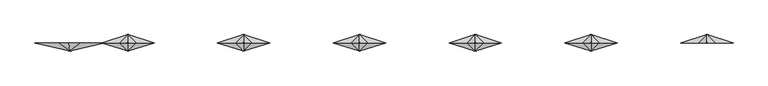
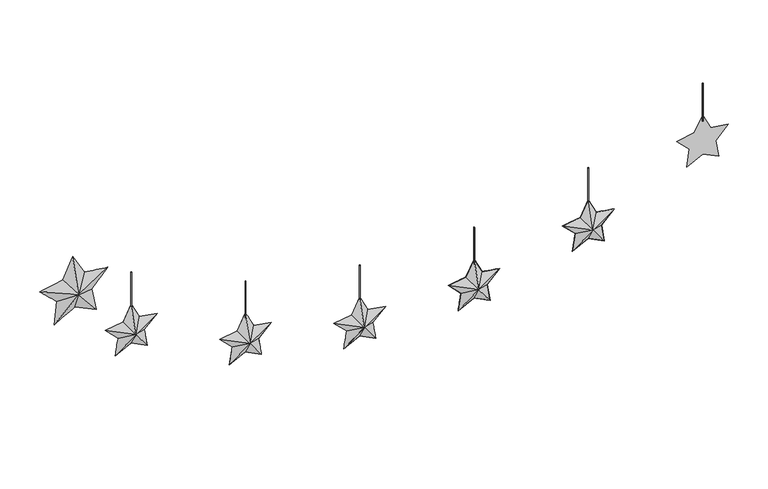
"""IFC4 building model written with IfcOpenShell, lengths in millimetres: furniture geometry, Blocks_Star Garland_F00495EN : Amarelo."""

from ifc_helpers import new_model, si_unit, point, frame, frame_2d, origin, place, context, project, spatial, circle_curve, trimmed, segment, composite_curve, outline, extrude, source, transform, mapped, element, save
from ifc_brep_helpers import plane_surface, spline_surface, advanced_brep


def furniture_0ae71e41(model_context):
    return source(origin(), model_context, "Body", "SolidModel", [
        advanced_brep(
        [(-856.4274722, -20.0, 2391.1650767), (-857.2103216, -20.0, 2391.6931154), (-857.9384188, -20.0, 2391.1330915), (-857.6264346, -20.0, 2390.2759219), (-856.6718154, -20.0, 2390.3129506), (-772.3482802, 0.0, 2421.7673999), (-812.8397593, 0.0, 2378.3456047), (-801.5110833, 0.0, 2320.0646192), (-855.3202198, 0.0, 2345.1562316), (-907.2479774, 0.0, 2316.3722055), (-900.0123736, 0.0, 2375.30147), (-943.4341687, 0.0, 2415.792949), (-885.1531832, 0.0, 2427.121625), (-860.0615708, 0.0, 2480.9307614), (-831.2775447, 0.0, 2429.0030038)],
        [
            (0, 1),
            (1, 2),
            (2, 3),
            (3, 4),
            (4, 0),
            (5, 6),
            (6, 7),
            (7, 8),
            (8, 9),
            (9, 10),
            (10, 11),
            (11, 12),
            (12, 13),
            (13, 14),
            (14, 5),
            (5, 0),
            (4, 6),
            (4, 7),
            (4, 8),
            (3, 9),
            (11, 2),
            (1, 12),
            (1, 13),
            (1, 14),
            (10, 3),
        ],
        [
            plane_surface(frame((-857.1748925, -20.0, 2390.9160312), z_axis=(0.0, -1.0000000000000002, 0.0), x_axis=(-0.8290375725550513, 0.0, 0.5591929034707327))),
            plane_surface(frame((-856.9206161, 0.0, 2390.985587), z_axis=(0.0, 1.0000000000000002, 0.0), x_axis=(-0.8290375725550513, 0.0, 0.5591929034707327))),
            spline_surface(1, 1, [[(-812.8397593, 0.0, 2378.3456047), (-856.6718154, -20.0, 2390.3129506)], [(-772.3482802, 0.0, 2421.7673999), (-856.4274722, -20.0, 2391.1650767)]], [2, 2], [2, 2], [0.0, 1.0], [0.0, 1.0]),
            plane_surface(frame((-807.1754213, 0.0, 2349.205112), z_axis=(0.4325552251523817, -0.8976783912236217, 0.0840802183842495), x_axis=(-0.19080899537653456, 0.0, 0.981627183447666))),
            plane_surface(frame((-828.4156515, 0.0, 2332.6104254), z_axis=(-0.1876682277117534, -0.8959966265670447, -0.40245581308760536), x_axis=(0.9063077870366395, 0.0, -0.42261826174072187))),
            spline_surface(1, 1, [[(-907.2479774, 0.0, 2316.3722055), (-857.6264346, -20.0, 2390.2759219)], [(-855.3202198, 0.0, 2345.1562316), (-856.6718154, -20.0, 2390.3129506)]], [2, 2], [2, 2], [0.0, 1.0], [0.0, 1.0]),
            spline_surface(1, 1, [[(-885.1531832, 0.0, 2427.121625), (-857.2103216, -20.0, 2391.6931154)], [(-943.4341687, 0.0, 2415.792949), (-857.9384188, -20.0, 2391.1330915)]], [2, 2], [2, 2], [0.0, 1.0], [0.0, 1.0]),
            plane_surface(frame((-872.607377, 0.0, 2454.0261932), z_axis=(-0.4029135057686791, -0.8957461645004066, 0.18788165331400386), x_axis=(-0.4226182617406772, 0.0, -0.9063077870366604))),
            plane_surface(frame((-845.6695578, 0.0, 2454.9668826), z_axis=(0.3852022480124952, -0.8977906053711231, 0.21352109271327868), x_axis=(-0.4848096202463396, 0.0, 0.8746197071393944))),
            spline_surface(1, 1, [[(-772.3482802, 0.0, 2421.7673999), (-856.4274722, -20.0, 2391.1650767)], [(-831.2775447, 0.0, 2429.0030038), (-857.2103216, -20.0, 2391.6931154)]], [2, 2], [2, 2], [0.0, 1.0], [0.0, 1.0]),
            spline_surface(1, 1, [[(-943.4341687, 0.0, 2415.792949), (-857.9384188, -20.0, 2391.1330915)], [(-900.0123736, 0.0, 2375.30147), (-857.6264346, -20.0, 2390.2759219)]], [2, 2], [2, 2], [0.0, 1.0], [0.0, 1.0]),
            plane_surface(frame((-903.6301755, 0.0, 2345.8368377), z_axis=(-0.4417137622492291, -0.8955151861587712, 0.05423563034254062), x_axis=(-0.12186934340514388, 0.0, -0.9925461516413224))),
        ],
        [
            (0, [[1, 2, 3, 4, 5]]),
            (1, [[6, 7, 8, 9, 10, 11, 12, 13, 14, 15]]),
            (2, [[-6, 16, -5, 17]]),
            (3, [[-7, -17, 18]]),
            (4, [[-8, -18, 19]]),
            (5, [[-9, -19, -4, 20]]),
            (6, [[-12, 21, -2, 22]]),
            (7, [[-13, -22, 23]]),
            (8, [[-14, -23, 24]]),
            (9, [[-15, -24, -1, -16]]),
            (10, [[-11, 25, -3, -21]]),
            (11, [[-10, -20, -25]]),
        ],
    ),
        extrude(outline(composite_curve([segment(trimmed(circle_curve(frame_2d((-714.2857143, 0.0)), 1.0), [point((-715.2857143, 0.0))], [point((-713.2857143, 0.0))], False, "CARTESIAN"), True, "CONTINUOUS"), segment(trimmed(circle_curve(frame_2d((-714.2857143, 0.0)), 1.0), [point((-713.2857143, 0.0))], [point((-715.2857143, 0.0))], False, "CARTESIAN"), True, "CONTINUOUS")], self_intersect=False)), frame((0.0, 0.0, 2287.5637503), z_axis=(0.0, 0.0, 1.0), x_axis=(1.0, 0.0, 0.0)), (0.0, 0.0, 1.0), 100.0),
        extrude(outline(composite_curve([segment(trimmed(circle_curve(frame_2d((-428.5714286, 0.0)), 1.0), [point((-429.5714286, 0.0))], [point((-427.5714286, 0.0))], False, "CARTESIAN"), True, "CONTINUOUS"), segment(trimmed(circle_curve(frame_2d((-428.5714286, 0.0)), 1.0), [point((-427.5714286, 0.0))], [point((-429.5714286, 0.0))], False, "CARTESIAN"), True, "CONTINUOUS")], self_intersect=False)), frame((0.0, 0.0, 2163.9606673), z_axis=(0.0, 0.0, 1.0), x_axis=(1.0, 0.0, 0.0)), (0.0, 0.0, 1.0), 100.0),
        extrude(outline(composite_curve([segment(trimmed(circle_curve(frame_2d((-142.8571429, 0.0)), 1.0), [point((-143.8571429, 0.0))], [point((-141.8571429, 0.0))], False, "CARTESIAN"), True, "CONTINUOUS"), segment(trimmed(circle_curve(frame_2d((-142.8571429, 0.0)), 1.0), [point((-141.8571429, 0.0))], [point((-143.8571429, 0.0))], False, "CARTESIAN"), True, "CONTINUOUS")], self_intersect=False)), frame((0.0, 0.0, 2106.2898264), z_axis=(0.0, 0.0, 1.0), x_axis=(1.0, 0.0, 0.0)), (0.0, 0.0, 1.0), 100.0),
        extrude(outline(composite_curve([segment(trimmed(circle_curve(frame_2d((714.2857143, 0.0)), 1.0), [point((715.2857143, 0.0))], [point((713.2857143, 0.0))], False, "CARTESIAN"), True, "CONTINUOUS"), segment(trimmed(circle_curve(frame_2d((714.2857143, 0.0)), 1.0), [point((713.2857143, 0.0))], [point((715.2857143, 0.0))], False, "CARTESIAN"), True, "CONTINUOUS")], self_intersect=False)), frame((0.0, 0.0, 2287.5637503), z_axis=(0.0, 0.0, 1.0), x_axis=(1.0, 0.0, 0.0)), (0.0, 0.0, 1.0), 100.0),
        extrude(outline(composite_curve([segment(trimmed(circle_curve(frame_2d((428.5714286, 0.0)), 1.0), [point((429.5714286, 0.0))], [point((427.5714286, 0.0))], False, "CARTESIAN"), True, "CONTINUOUS"), segment(trimmed(circle_curve(frame_2d((428.5714286, 0.0)), 1.0), [point((427.5714286, 0.0))], [point((429.5714286, 0.0))], False, "CARTESIAN"), True, "CONTINUOUS")], self_intersect=False)), frame((0.0, 0.0, 2163.9606673), z_axis=(0.0, 0.0, 1.0), x_axis=(1.0, 0.0, 0.0)), (0.0, 0.0, 1.0), 100.0),
        extrude(outline(composite_curve([segment(trimmed(circle_curve(frame_2d((142.8571429, 0.0)), 1.0), [point((143.8571429, 0.0))], [point((141.8571429, 0.0))], False, "CARTESIAN"), True, "CONTINUOUS"), segment(trimmed(circle_curve(frame_2d((142.8571429, 0.0)), 1.0), [point((141.8571429, 0.0))], [point((143.8571429, 0.0))], False, "CARTESIAN"), True, "CONTINUOUS")], self_intersect=False)), frame((0.0, 0.0, 2106.2898264), z_axis=(0.0, 0.0, 1.0), x_axis=(1.0, 0.0, 0.0)), (0.0, 0.0, 1.0), 100.0),
        advanced_brep(
        [(-142.8571429, -20.0, 2054.7920539), (-143.5743091, -20.0, 2054.2710021), (-143.2826057, -20.0, 2053.3612889), (-142.3704249, -20.0, 2053.3612889), (-142.0931986, -20.0, 2054.2370159), (-142.8571429, 0.0, 2122.2403684), (-122.4997719, 0.0, 2082.2867784), (-78.2108762, 0.0, 2075.2721064), (-109.9182248, 0.0, 2043.5647578), (-102.9035528, 0.0, 1999.2758621), (-142.8571429, 0.0, 2019.633233), (-182.8107329, 0.0, 1999.2758621), (-175.7960609, 0.0, 2043.5647578), (-207.5034095, 0.0, 2075.2721064), (-163.2145138, 0.0, 2082.2867784)],
        [
            (0, 1),
            (1, 2),
            (2, 3),
            (3, 4),
            (4, 0),
            (5, 6),
            (6, 7),
            (7, 8),
            (8, 9),
            (9, 10),
            (10, 11),
            (11, 12),
            (12, 13),
            (13, 14),
            (14, 5),
            (14, 1),
            (0, 5),
            (13, 1),
            (12, 1),
            (11, 2),
            (10, 3),
            (9, 3),
            (8, 4),
            (7, 4),
            (6, 4),
        ],
        [
            plane_surface(frame((-142.8355362, -20.0, 2054.0045299), z_axis=(0.0, -1.0000000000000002, 0.0), x_axis=(-0.809016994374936, 0.0, -0.587785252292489))),
            plane_surface(frame((-142.8571429, 0.0, 2054.2672611), z_axis=(0.0, 1.0000000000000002, 0.0), x_axis=(-0.809016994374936, 0.0, -0.587785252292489))),
            spline_surface(1, 1, [[(-142.8571429, 0.0, 2122.2403684), (-142.8571429, -20.0, 2054.7920539)], [(-163.2145138, 0.0, 2082.2867784), (-143.5743091, -20.0, 2054.2710021)]], [2, 2], [2, 2], [0.0, 1.0], [0.0, 1.0]),
            plane_surface(frame((-185.3589617, 0.0, 2078.7794424), z_axis=(-0.08530557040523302, -0.8382332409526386, 0.5385981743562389), x_axis=(-0.9876883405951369, 0.0, -0.15643446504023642))),
            plane_surface(frame((-191.6497352, 0.0, 2059.4184321), z_axis=(-0.3890422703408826, -0.8350402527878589, -0.38904227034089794), x_axis=(0.7071067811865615, 0.0, -0.7071067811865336))),
            spline_surface(1, 1, [[(-175.7960609, 0.0, 2043.5647578), (-143.5743091, -20.0, 2054.2710021)], [(-182.8107329, 0.0, 1999.2758621), (-143.2826057, -20.0, 2053.3612889)]], [2, 2], [2, 2], [0.0, 1.0], [0.0, 1.0]),
            spline_surface(1, 1, [[(-182.8107329, 0.0, 1999.2758621), (-143.2826057, -20.0, 2053.3612889)], [(-142.8571429, 0.0, 2019.633233), (-142.3704249, -20.0, 2053.3612889)]], [2, 2], [2, 2], [0.0, 1.0], [0.0, 1.0]),
            plane_surface(frame((-122.8803478, 0.0, 2009.4545475), z_axis=(-0.25025052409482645, -0.8343572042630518, -0.49114430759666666), x_axis=(0.8910065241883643, 0.0, -0.45399049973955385))),
            spline_surface(1, 1, [[(-102.9035528, 0.0, 1999.2758621), (-142.3704249, -20.0, 2053.3612889)], [(-109.9182248, 0.0, 2043.5647578), (-142.0931986, -20.0, 2054.2370159)]], [2, 2], [2, 2], [0.0, 1.0], [0.0, 1.0]),
            plane_surface(frame((-94.0645505, 0.0, 2059.4184321), z_axis=(0.38955317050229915, -0.8345637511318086, -0.3895531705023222), x_axis=(0.7071067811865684, 0.0, 0.7071067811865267))),
            plane_surface(frame((-100.3553241, 0.0, 2078.7794424), z_axis=(0.08525441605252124, -0.8384458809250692, 0.5382751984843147), x_axis=(-0.9876883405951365, 0.0, 0.15643446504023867))),
            spline_surface(1, 1, [[(-122.4997719, 0.0, 2082.2867784), (-142.0931986, -20.0, 2054.2370159)], [(-142.8571429, 0.0, 2122.2403684), (-142.8571429, -20.0, 2054.7920539)]], [2, 2], [2, 2], [0.0, 1.0], [0.0, 1.0]),
        ],
        [
            (0, [[1, 2, 3, 4, 5]]),
            (1, [[6, 7, 8, 9, 10, 11, 12, 13, 14, 15]]),
            (2, [[-15, 16, -1, 17]]),
            (3, [[-14, 18, -16]]),
            (4, [[-13, 19, -18]]),
            (5, [[-12, 20, -2, -19]]),
            (6, [[-11, 21, -3, -20]]),
            (7, [[-10, 22, -21]]),
            (8, [[-9, 23, -4, -22]]),
            (9, [[-8, 24, -23]]),
            (10, [[-7, 25, -24]]),
            (11, [[-6, -17, -5, -25]]),
        ],
    ),
        advanced_brep(
        [(-142.8571429, 20.0, 2054.7920539), (-142.0931986, 20.0, 2054.2370159), (-142.3704249, 20.0, 2053.3612889), (-143.2826057, 20.0, 2053.3612889), (-143.5743091, 20.0, 2054.2710021), (-142.8571429, 0.0, 2122.2403684), (-163.2145138, 0.0, 2082.2867784), (-207.5034095, 0.0, 2075.2721064), (-175.7960609, 0.0, 2043.5647578), (-182.8107329, 0.0, 1999.2758621), (-142.8571429, 0.0, 2019.633233), (-102.9035528, 0.0, 1999.2758621), (-109.9182248, 0.0, 2043.5647578), (-78.2108762, 0.0, 2075.2721064), (-122.4997719, 0.0, 2082.2867784)],
        [
            (0, 1),
            (1, 2),
            (2, 3),
            (3, 4),
            (4, 0),
            (5, 6),
            (6, 7),
            (7, 8),
            (8, 9),
            (9, 10),
            (10, 11),
            (11, 12),
            (12, 13),
            (13, 14),
            (14, 5),
            (12, 1),
            (1, 13),
            (11, 2),
            (10, 2),
            (9, 3),
            (8, 4),
            (7, 4),
            (6, 4),
            (5, 0),
            (14, 0),
        ],
        [
            plane_surface(frame((-142.8355362, 20.0, 2054.0045299), z_axis=(0.0, 1.0, 0.0), x_axis=(0.8090169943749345, 0.0, -0.5877852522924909))),
            plane_surface(frame((-142.8571429, 0.0, 2054.2672611), z_axis=(0.0, -1.0, 0.0), x_axis=(0.8090169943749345, 0.0, -0.5877852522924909))),
            plane_surface(frame((-94.0645505, 0.0, 2059.4184321), z_axis=(0.3895531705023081, 0.8345637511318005, -0.38955317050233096), x_axis=(-0.7071067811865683, 0.0, -0.7071067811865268))),
            spline_surface(1, 1, [[(-109.9182248, 0.0, 2043.5647578), (-142.0931986, 20.0, 2054.2370159)], [(-102.9035528, 0.0, 1999.2758621), (-142.3704249, 20.0, 2053.3612889)]], [2, 2], [2, 2], [0.0, 1.0], [0.0, 1.0]),
            plane_surface(frame((-122.8803478, 0.0, 2009.4545475), z_axis=(-0.2502505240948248, 0.834357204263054, -0.4911443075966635), x_axis=(-0.8910065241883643, 0.0, 0.4539904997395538))),
            spline_surface(1, 1, [[(-142.8571429, 0.0, 2019.633233), (-142.3704249, 20.0, 2053.3612889)], [(-182.8107329, 0.0, 1999.2758621), (-143.2826057, 20.0, 2053.3612889)]], [2, 2], [2, 2], [0.0, 1.0], [0.0, 1.0]),
            spline_surface(1, 1, [[(-182.8107329, 0.0, 1999.2758621), (-143.2826057, 20.0, 2053.3612889)], [(-175.7960609, 0.0, 2043.5647578), (-143.5743091, 20.0, 2054.2710021)]], [2, 2], [2, 2], [0.0, 1.0], [0.0, 1.0]),
            plane_surface(frame((-191.6497352, 0.0, 2059.4184321), z_axis=(-0.38904227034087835, 0.8350402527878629, -0.3890422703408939), x_axis=(-0.7071067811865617, 0.0, 0.7071067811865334))),
            plane_surface(frame((-185.3589617, 0.0, 2078.7794424), z_axis=(-0.08530557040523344, 0.8382332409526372, 0.5385981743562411), x_axis=(0.9876883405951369, 0.0, 0.15643446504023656))),
            spline_surface(1, 1, [[(-163.2145138, 0.0, 2082.2867784), (-143.5743091, 20.0, 2054.2710021)], [(-142.8571429, 0.0, 2122.2403684), (-142.8571429, 20.0, 2054.7920539)]], [2, 2], [2, 2], [0.0, 1.0], [0.0, 1.0]),
            plane_surface(frame((-132.6784574, 0.0, 2102.2635734), z_axis=(0.48723827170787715, 0.8372369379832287, 0.2482602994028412), x_axis=(0.4539904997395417, 0.0, -0.8910065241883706))),
            spline_surface(1, 1, [[(-122.4997719, 0.0, 2082.2867784), (-142.8571429, 20.0, 2054.7920539)], [(-78.2108762, 0.0, 2075.2721064), (-142.0931986, 20.0, 2054.2370159)]], [2, 2], [2, 2], [0.0, 1.0], [0.0, 1.0]),
        ],
        [
            (0, [[1, 2, 3, 4, 5]]),
            (1, [[6, 7, 8, 9, 10, 11, 12, 13, 14, 15]]),
            (2, [[-13, 16, 17]]),
            (3, [[-12, 18, -2, -16]]),
            (4, [[-11, 19, -18]]),
            (5, [[-10, 20, -3, -19]]),
            (6, [[-9, 21, -4, -20]]),
            (7, [[-8, 22, -21]]),
            (8, [[-7, 23, -22]]),
            (9, [[-6, 24, -5, -23]]),
            (10, [[-15, 25, -24]]),
            (11, [[-14, -17, -1, -25]]),
        ],
    ),
        advanced_brep(
        [(-428.5714286, -20.0, 2112.4628948), (-429.2885949, -20.0, 2111.941843), (-428.9968915, -20.0, 2111.0321298), (-428.0847106, -20.0, 2111.0321298), (-427.8074843, -20.0, 2111.9078568), (-428.5714286, 0.0, 2179.9112093), (-408.2140576, 0.0, 2139.9576193), (-363.9251619, 0.0, 2132.9429473), (-395.6325105, 0.0, 2101.2355987), (-388.6178385, 0.0, 2056.946703), (-428.5714286, 0.0, 2077.3040739), (-468.5250186, 0.0, 2056.946703), (-461.5103467, 0.0, 2101.2355987), (-493.2176953, 0.0, 2132.9429473), (-448.9287995, 0.0, 2139.9576193)],
        [
            (0, 1),
            (1, 2),
            (2, 3),
            (3, 4),
            (4, 0),
            (5, 6),
            (6, 7),
            (7, 8),
            (8, 9),
            (9, 10),
            (10, 11),
            (11, 12),
            (12, 13),
            (13, 14),
            (14, 5),
            (14, 1),
            (0, 5),
            (13, 1),
            (12, 1),
            (11, 2),
            (10, 3),
            (9, 3),
            (8, 4),
            (7, 4),
            (6, 4),
        ],
        [
            plane_surface(frame((-428.549822, -20.0, 2111.6753708), z_axis=(0.0, -1.0000000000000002, 0.0), x_axis=(-0.809016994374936, 0.0, -0.587785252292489))),
            plane_surface(frame((-428.5714286, 0.0, 2111.938102), z_axis=(0.0, 1.0000000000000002, 0.0), x_axis=(-0.809016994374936, 0.0, -0.587785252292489))),
            spline_surface(1, 1, [[(-428.5714286, 0.0, 2179.9112093), (-428.5714286, -20.0, 2112.4628948)], [(-448.9287995, 0.0, 2139.9576193), (-429.2885949, -20.0, 2111.941843)]], [2, 2], [2, 2], [0.0, 1.0], [0.0, 1.0]),
            plane_surface(frame((-471.0732474, 0.0, 2136.4502833), z_axis=(-0.08530557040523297, -0.8382332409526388, 0.5385981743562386), x_axis=(-0.9876883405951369, 0.0, -0.15643446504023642))),
            plane_surface(frame((-477.364021, 0.0, 2117.089273), z_axis=(-0.3890422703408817, -0.8350402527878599, -0.389042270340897), x_axis=(0.7071067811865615, 0.0, -0.7071067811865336))),
            spline_surface(1, 1, [[(-461.5103467, 0.0, 2101.2355987), (-429.2885949, -20.0, 2111.941843)], [(-468.5250186, 0.0, 2056.946703), (-428.9968915, -20.0, 2111.0321298)]], [2, 2], [2, 2], [0.0, 1.0], [0.0, 1.0]),
            spline_surface(1, 1, [[(-468.5250186, 0.0, 2056.946703), (-428.9968915, -20.0, 2111.0321298)], [(-428.5714286, 0.0, 2077.3040739), (-428.0847106, -20.0, 2111.0321298)]], [2, 2], [2, 2], [0.0, 1.0], [0.0, 1.0]),
            plane_surface(frame((-408.5946335, 0.0, 2067.1253884), z_axis=(-0.2502505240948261, -0.8343572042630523, -0.49114430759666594), x_axis=(0.8910065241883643, 0.0, -0.45399049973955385))),
            spline_surface(1, 1, [[(-388.6178385, 0.0, 2056.946703), (-428.0847106, -20.0, 2111.0321298)], [(-395.6325105, 0.0, 2101.2355987), (-427.8074843, -20.0, 2111.9078568)]], [2, 2], [2, 2], [0.0, 1.0], [0.0, 1.0]),
            plane_surface(frame((-379.7788362, 0.0, 2117.089273), z_axis=(0.3895531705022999, -0.8345637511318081, -0.38955317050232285), x_axis=(0.7071067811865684, 0.0, 0.7071067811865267))),
            plane_surface(frame((-386.0696098, 0.0, 2136.4502833), z_axis=(0.08525441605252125, -0.8384458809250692, 0.5382751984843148), x_axis=(-0.9876883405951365, 0.0, 0.15643446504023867))),
            spline_surface(1, 1, [[(-408.2140576, 0.0, 2139.9576193), (-427.8074843, -20.0, 2111.9078568)], [(-428.5714286, 0.0, 2179.9112093), (-428.5714286, -20.0, 2112.4628948)]], [2, 2], [2, 2], [0.0, 1.0], [0.0, 1.0]),
        ],
        [
            (0, [[1, 2, 3, 4, 5]]),
            (1, [[6, 7, 8, 9, 10, 11, 12, 13, 14, 15]]),
            (2, [[-15, 16, -1, 17]]),
            (3, [[-14, 18, -16]]),
            (4, [[-13, 19, -18]]),
            (5, [[-12, 20, -2, -19]]),
            (6, [[-11, 21, -3, -20]]),
            (7, [[-10, 22, -21]]),
            (8, [[-9, 23, -4, -22]]),
            (9, [[-8, 24, -23]]),
            (10, [[-7, 25, -24]]),
            (11, [[-6, -17, -5, -25]]),
        ],
    ),
        advanced_brep(
        [(-428.5714286, 20.0, 2112.4628948), (-427.8074843, 20.0, 2111.9078568), (-428.0847106, 20.0, 2111.0321298), (-428.9968915, 20.0, 2111.0321298), (-429.2885949, 20.0, 2111.941843), (-428.5714286, 0.0, 2179.9112093), (-448.9287995, 0.0, 2139.9576193), (-493.2176953, 0.0, 2132.9429473), (-461.5103467, 0.0, 2101.2355987), (-468.5250186, 0.0, 2056.946703), (-428.5714286, 0.0, 2077.3040739), (-388.6178385, 0.0, 2056.946703), (-395.6325105, 0.0, 2101.2355987), (-363.9251619, 0.0, 2132.9429473), (-408.2140576, 0.0, 2139.9576193)],
        [
            (0, 1),
            (1, 2),
            (2, 3),
            (3, 4),
            (4, 0),
            (5, 6),
            (6, 7),
            (7, 8),
            (8, 9),
            (9, 10),
            (10, 11),
            (11, 12),
            (12, 13),
            (13, 14),
            (14, 5),
            (12, 1),
            (1, 13),
            (11, 2),
            (10, 2),
            (9, 3),
            (8, 4),
            (7, 4),
            (6, 0),
            (5, 0),
            (14, 0),
        ],
        [
            plane_surface(frame((-428.549822, 20.0, 2111.6753708), z_axis=(0.0, 1.0, 0.0), x_axis=(0.8090169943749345, 0.0, -0.5877852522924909))),
            plane_surface(frame((-428.5714286, 0.0, 2111.938102), z_axis=(0.0, -1.0, 0.0), x_axis=(0.8090169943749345, 0.0, -0.5877852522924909))),
            plane_surface(frame((-379.7788362, 0.0, 2117.089273), z_axis=(0.38955317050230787, 0.8345637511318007, -0.38955317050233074), x_axis=(-0.7071067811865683, 0.0, -0.7071067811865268))),
            spline_surface(1, 1, [[(-395.6325105, 0.0, 2101.2355987), (-427.8074843, 20.0, 2111.9078568)], [(-388.6178385, 0.0, 2056.946703), (-428.0847106, 20.0, 2111.0321298)]], [2, 2], [2, 2], [0.0, 1.0], [0.0, 1.0]),
            plane_surface(frame((-408.5946335, 0.0, 2067.1253884), z_axis=(-0.2502505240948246, 0.8343572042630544, -0.49114430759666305), x_axis=(-0.8910065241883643, 0.0, 0.4539904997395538))),
            spline_surface(1, 1, [[(-428.5714286, 0.0, 2077.3040739), (-428.0847106, 20.0, 2111.0321298)], [(-468.5250186, 0.0, 2056.946703), (-428.9968915, 20.0, 2111.0321298)]], [2, 2], [2, 2], [0.0, 1.0], [0.0, 1.0]),
            spline_surface(1, 1, [[(-468.5250186, 0.0, 2056.946703), (-428.9968915, 20.0, 2111.0321298)], [(-461.5103467, 0.0, 2101.2355987), (-429.2885949, 20.0, 2111.941843)]], [2, 2], [2, 2], [0.0, 1.0], [0.0, 1.0]),
            plane_surface(frame((-477.364021, 0.0, 2117.089273), z_axis=(-0.38904227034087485, 0.8350402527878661, -0.38904227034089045), x_axis=(-0.7071067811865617, 0.0, 0.7071067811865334))),
            spline_surface(1, 1, [[(-493.2176953, 0.0, 2132.9429473), (-429.2885949, 20.0, 2111.941843)], [(-448.9287995, 0.0, 2139.9576193), (-428.5714286, 20.0, 2112.4628948)]], [2, 2], [2, 2], [0.0, 1.0], [0.0, 1.0]),
            plane_surface(frame((-438.750114, 0.0, 2159.9344143), z_axis=(-0.487238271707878, 0.8372369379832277, 0.2482602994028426), x_axis=(0.4539904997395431, 0.0, 0.8910065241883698))),
            plane_surface(frame((-418.3927431, 0.0, 2159.9344143), z_axis=(0.4872382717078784, 0.8372369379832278, 0.24826029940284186), x_axis=(0.4539904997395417, 0.0, -0.8910065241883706))),
            spline_surface(1, 1, [[(-408.2140576, 0.0, 2139.9576193), (-428.5714286, 20.0, 2112.4628948)], [(-363.9251619, 0.0, 2132.9429473), (-427.8074843, 20.0, 2111.9078568)]], [2, 2], [2, 2], [0.0, 1.0], [0.0, 1.0]),
        ],
        [
            (0, [[1, 2, 3, 4, 5]]),
            (1, [[6, 7, 8, 9, 10, 11, 12, 13, 14, 15]]),
            (2, [[-13, 16, 17]]),
            (3, [[-12, 18, -2, -16]]),
            (4, [[-11, 19, -18]]),
            (5, [[-10, 20, -3, -19]]),
            (6, [[-9, 21, -4, -20]]),
            (7, [[-8, 22, -21]]),
            (8, [[-7, 23, -5, -22]]),
            (9, [[-6, 24, -23]]),
            (10, [[-15, 25, -24]]),
            (11, [[-14, -17, -1, -25]]),
        ],
    ),
        advanced_brep(
        [(-714.2857143, -20.0, 2236.0659778), (-715.0028806, -20.0, 2235.544926), (-714.7111772, -20.0, 2234.6352128), (-713.7989963, -20.0, 2234.6352128), (-713.52177, -20.0, 2235.5109398), (-714.2857143, 0.0, 2303.5142923), (-693.9283434, 0.0, 2263.5607023), (-649.6394476, 0.0, 2256.5460303), (-681.3467962, 0.0, 2224.8386817), (-674.3321242, 0.0, 2180.549786), (-714.2857143, 0.0, 2200.9071569), (-754.2393043, 0.0, 2180.549786), (-747.2246324, 0.0, 2224.8386817), (-778.931981, 0.0, 2256.5460303), (-734.6430852, 0.0, 2263.5607023)],
        [
            (0, 1),
            (1, 2),
            (2, 3),
            (3, 4),
            (4, 0),
            (5, 6),
            (6, 7),
            (7, 8),
            (8, 9),
            (9, 10),
            (10, 11),
            (11, 12),
            (12, 13),
            (13, 14),
            (14, 5),
            (14, 1),
            (0, 5),
            (13, 1),
            (12, 1),
            (11, 2),
            (10, 3),
            (9, 3),
            (8, 4),
            (7, 4),
            (6, 4),
        ],
        [
            plane_surface(frame((-714.2641077, -20.0, 2235.2784538), z_axis=(0.0, -1.0000000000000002, 0.0), x_axis=(-0.809016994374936, 0.0, -0.587785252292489))),
            plane_surface(frame((-714.2857143, 0.0, 2235.541185), z_axis=(0.0, 1.0000000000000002, 0.0), x_axis=(-0.809016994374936, 0.0, -0.587785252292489))),
            spline_surface(1, 1, [[(-714.2857143, 0.0, 2303.5142923), (-714.2857143, -20.0, 2236.0659778)], [(-734.6430852, 0.0, 2263.5607023), (-715.0028806, -20.0, 2235.544926)]], [2, 2], [2, 2], [0.0, 1.0], [0.0, 1.0]),
            plane_surface(frame((-756.7875331, 0.0, 2260.0533663), z_axis=(-0.08530557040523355, -0.8382332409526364, 0.5385981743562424), x_axis=(-0.9876883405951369, 0.0, -0.15643446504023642))),
            plane_surface(frame((-763.0783067, 0.0, 2240.692356), z_axis=(-0.3890422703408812, -0.8350402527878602, -0.38904227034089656), x_axis=(0.7071067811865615, 0.0, -0.7071067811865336))),
            spline_surface(1, 1, [[(-747.2246324, 0.0, 2224.8386817), (-715.0028806, -20.0, 2235.544926)], [(-754.2393043, 0.0, 2180.549786), (-714.7111772, -20.0, 2234.6352128)]], [2, 2], [2, 2], [0.0, 1.0], [0.0, 1.0]),
            spline_surface(1, 1, [[(-754.2393043, 0.0, 2180.549786), (-714.7111772, -20.0, 2234.6352128)], [(-714.2857143, 0.0, 2200.9071569), (-713.7989963, -20.0, 2234.6352128)]], [2, 2], [2, 2], [0.0, 1.0], [0.0, 1.0]),
            plane_surface(frame((-694.3089193, 0.0, 2190.7284714), z_axis=(-0.2502505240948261, -0.8343572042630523, -0.49114430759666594), x_axis=(0.8910065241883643, 0.0, -0.45399049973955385))),
            spline_surface(1, 1, [[(-674.3321242, 0.0, 2180.549786), (-713.7989963, -20.0, 2234.6352128)], [(-681.3467962, 0.0, 2224.8386817), (-713.52177, -20.0, 2235.5109398)]], [2, 2], [2, 2], [0.0, 1.0], [0.0, 1.0]),
            plane_surface(frame((-665.4931219, 0.0, 2240.692356), z_axis=(0.3895531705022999, -0.8345637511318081, -0.38955317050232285), x_axis=(0.7071067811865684, 0.0, 0.7071067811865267))),
            plane_surface(frame((-671.7838955, 0.0, 2260.0533663), z_axis=(0.08525441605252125, -0.8384458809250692, 0.5382751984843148), x_axis=(-0.9876883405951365, 0.0, 0.15643446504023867))),
            spline_surface(1, 1, [[(-693.9283434, 0.0, 2263.5607023), (-713.52177, -20.0, 2235.5109398)], [(-714.2857143, 0.0, 2303.5142923), (-714.2857143, -20.0, 2236.0659778)]], [2, 2], [2, 2], [0.0, 1.0], [0.0, 1.0]),
        ],
        [
            (0, [[1, 2, 3, 4, 5]]),
            (1, [[6, 7, 8, 9, 10, 11, 12, 13, 14, 15]]),
            (2, [[-15, 16, -1, 17]]),
            (3, [[-14, 18, -16]]),
            (4, [[-13, 19, -18]]),
            (5, [[-12, 20, -2, -19]]),
            (6, [[-11, 21, -3, -20]]),
            (7, [[-10, 22, -21]]),
            (8, [[-9, 23, -4, -22]]),
            (9, [[-8, 24, -23]]),
            (10, [[-7, 25, -24]]),
            (11, [[-6, -17, -5, -25]]),
        ],
    ),
        advanced_brep(
        [(-714.2857143, 20.0, 2236.0659778), (-713.52177, 20.0, 2235.5109398), (-713.7989963, 20.0, 2234.6352128), (-714.7111772, 20.0, 2234.6352128), (-715.0028806, 20.0, 2235.544926), (-714.2857143, 0.0, 2303.5142923), (-734.6430852, 0.0, 2263.5607023), (-778.931981, 0.0, 2256.5460303), (-747.2246324, 0.0, 2224.8386817), (-754.2393043, 0.0, 2180.549786), (-714.2857143, 0.0, 2200.9071569), (-674.3321242, 0.0, 2180.549786), (-681.3467962, 0.0, 2224.8386817), (-649.6394476, 0.0, 2256.5460303), (-693.9283434, 0.0, 2263.5607023)],
        [
            (0, 1),
            (1, 2),
            (2, 3),
            (3, 4),
            (4, 0),
            (5, 6),
            (6, 7),
            (7, 8),
            (8, 9),
            (9, 10),
            (10, 11),
            (11, 12),
            (12, 13),
            (13, 14),
            (14, 5),
            (12, 1),
            (1, 13),
            (11, 2),
            (10, 2),
            (9, 3),
            (8, 4),
            (7, 4),
            (6, 0),
            (5, 0),
            (14, 0),
        ],
        [
            plane_surface(frame((-714.2641077, 20.0, 2235.2784538), z_axis=(0.0, 1.0, 0.0), x_axis=(0.8090169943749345, 0.0, -0.5877852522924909))),
            plane_surface(frame((-714.2857143, 0.0, 2235.541185), z_axis=(0.0, -1.0, 0.0), x_axis=(0.8090169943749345, 0.0, -0.5877852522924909))),
            plane_surface(frame((-665.4931219, 0.0, 2240.692356), z_axis=(0.38955317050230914, 0.8345637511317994, -0.389553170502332), x_axis=(-0.7071067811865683, 0.0, -0.7071067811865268))),
            spline_surface(1, 1, [[(-681.3467962, 0.0, 2224.8386817), (-713.52177, 20.0, 2235.5109398)], [(-674.3321242, 0.0, 2180.549786), (-713.7989963, 20.0, 2234.6352128)]], [2, 2], [2, 2], [0.0, 1.0], [0.0, 1.0]),
            plane_surface(frame((-694.3089193, 0.0, 2190.7284714), z_axis=(-0.25025052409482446, 0.8343572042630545, -0.4911443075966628), x_axis=(-0.8910065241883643, 0.0, 0.4539904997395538))),
            spline_surface(1, 1, [[(-714.2857143, 0.0, 2200.9071569), (-713.7989963, 20.0, 2234.6352128)], [(-754.2393043, 0.0, 2180.549786), (-714.7111772, 20.0, 2234.6352128)]], [2, 2], [2, 2], [0.0, 1.0], [0.0, 1.0]),
            spline_surface(1, 1, [[(-754.2393043, 0.0, 2180.549786), (-714.7111772, 20.0, 2234.6352128)], [(-747.2246324, 0.0, 2224.8386817), (-715.0028806, 20.0, 2235.544926)]], [2, 2], [2, 2], [0.0, 1.0], [0.0, 1.0]),
            plane_surface(frame((-763.0783067, 0.0, 2240.692356), z_axis=(-0.3890422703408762, 0.8350402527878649, -0.3890422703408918), x_axis=(-0.7071067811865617, 0.0, 0.7071067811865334))),
            spline_surface(1, 1, [[(-778.931981, 0.0, 2256.5460303), (-715.0028806, 20.0, 2235.544926)], [(-734.6430852, 0.0, 2263.5607023), (-714.2857143, 20.0, 2236.0659778)]], [2, 2], [2, 2], [0.0, 1.0], [0.0, 1.0]),
            plane_surface(frame((-724.4643998, 0.0, 2283.5374973), z_axis=(-0.4872382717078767, 0.8372369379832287, 0.24826029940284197), x_axis=(0.4539904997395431, 0.0, 0.8910065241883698))),
            plane_surface(frame((-704.1070288, 0.0, 2283.5374973), z_axis=(0.48723827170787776, 0.8372369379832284, 0.2482602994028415), x_axis=(0.4539904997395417, 0.0, -0.8910065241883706))),
            spline_surface(1, 1, [[(-693.9283434, 0.0, 2263.5607023), (-714.2857143, 20.0, 2236.0659778)], [(-649.6394476, 0.0, 2256.5460303), (-713.52177, 20.0, 2235.5109398)]], [2, 2], [2, 2], [0.0, 1.0], [0.0, 1.0]),
        ],
        [
            (0, [[1, 2, 3, 4, 5]]),
            (1, [[6, 7, 8, 9, 10, 11, 12, 13, 14, 15]]),
            (2, [[-13, 16, 17]]),
            (3, [[-12, 18, -2, -16]]),
            (4, [[-11, 19, -18]]),
            (5, [[-10, 20, -3, -19]]),
            (6, [[-9, 21, -4, -20]]),
            (7, [[-8, 22, -21]]),
            (8, [[-7, 23, -5, -22]]),
            (9, [[-6, 24, -23]]),
            (10, [[-15, 25, -24]]),
            (11, [[-14, -17, -1, -25]]),
        ],
    ),
        advanced_brep(
        [(142.8571429, 20.0, 2054.7920539), (143.5743091, 20.0, 2054.2710021), (143.2826057, 20.0, 2053.3612889), (142.3704249, 20.0, 2053.3612889), (142.0931986, 20.0, 2054.2370159), (142.8571429, 0.0, 2122.2403684), (122.4997719, 0.0, 2082.2867784), (78.2108762, 0.0, 2075.2721064), (109.9182248, 0.0, 2043.5647578), (102.9035528, 0.0, 1999.2758621), (142.8571429, 0.0, 2019.633233), (182.8107329, 0.0, 1999.2758621), (175.7960609, 0.0, 2043.5647578), (207.5034095, 0.0, 2075.2721064), (163.2145138, 0.0, 2082.2867784)],
        [
            (0, 1),
            (1, 2),
            (2, 3),
            (3, 4),
            (4, 0),
            (5, 6),
            (6, 7),
            (7, 8),
            (8, 9),
            (9, 10),
            (10, 11),
            (11, 12),
            (12, 13),
            (13, 14),
            (14, 5),
            (14, 1),
            (0, 5),
            (13, 1),
            (12, 1),
            (11, 2),
            (10, 3),
            (9, 3),
            (8, 4),
            (7, 4),
            (6, 4),
        ],
        [
            plane_surface(frame((142.8355362, 20.0, 2054.0045299), z_axis=(0.0, 1.0, 0.0), x_axis=(0.8090169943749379, 0.0, -0.5877852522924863))),
            plane_surface(frame((142.8571429, 0.0, 2054.2672611), z_axis=(0.0, -1.0, 0.0), x_axis=(0.8090169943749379, 0.0, -0.5877852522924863))),
            spline_surface(1, 1, [[(142.8571429, 0.0, 2122.2403684), (142.8571429, 20.0, 2054.7920539)], [(163.2145138, 0.0, 2082.2867784), (143.5743091, 20.0, 2054.2710021)]], [2, 2], [2, 2], [0.0, 1.0], [0.0, 1.0]),
            plane_surface(frame((185.3589617, 0.0, 2078.7794424), z_axis=(0.08530557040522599, 0.8382332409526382, 0.5385981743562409), x_axis=(0.9876883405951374, 0.0, -0.15643446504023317))),
            plane_surface(frame((191.6497352, 0.0, 2059.4184321), z_axis=(0.38904227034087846, 0.8350402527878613, -0.3890422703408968), x_axis=(-0.7071067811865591, 0.0, -0.7071067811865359))),
            spline_surface(1, 1, [[(175.7960609, 0.0, 2043.5647578), (143.5743091, 20.0, 2054.2710021)], [(182.8107329, 0.0, 1999.2758621), (143.2826057, 20.0, 2053.3612889)]], [2, 2], [2, 2], [0.0, 1.0], [0.0, 1.0]),
            spline_surface(1, 1, [[(182.8107329, 0.0, 1999.2758621), (143.2826057, 20.0, 2053.3612889)], [(142.8571429, 0.0, 2019.633233), (142.3704249, 20.0, 2053.3612889)]], [2, 2], [2, 2], [0.0, 1.0], [0.0, 1.0]),
            plane_surface(frame((122.8803478, 0.0, 2009.4545475), z_axis=(0.25025052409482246, 0.8343572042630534, -0.49114430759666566), x_axis=(-0.8910065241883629, 0.0, -0.4539904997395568))),
            spline_surface(1, 1, [[(102.9035528, 0.0, 1999.2758621), (142.3704249, 20.0, 2053.3612889)], [(109.9182248, 0.0, 2043.5647578), (142.0931986, 20.0, 2054.2370159)]], [2, 2], [2, 2], [0.0, 1.0], [0.0, 1.0]),
            plane_surface(frame((94.0645505, 0.0, 2059.4184321), z_axis=(-0.3895531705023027, 0.8345637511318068, -0.38955317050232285), x_axis=(-0.7071067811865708, 0.0, 0.7071067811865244))),
            plane_surface(frame((100.3553241, 0.0, 2078.7794424), z_axis=(-0.0852544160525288, 0.8384458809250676, 0.5382751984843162), x_axis=(0.987688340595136, 0.0, 0.15643446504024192))),
            spline_surface(1, 1, [[(122.4997719, 0.0, 2082.2867784), (142.0931986, 20.0, 2054.2370159)], [(142.8571429, 0.0, 2122.2403684), (142.8571429, 20.0, 2054.7920539)]], [2, 2], [2, 2], [0.0, 1.0], [0.0, 1.0]),
        ],
        [
            (0, [[1, 2, 3, 4, 5]]),
            (1, [[6, 7, 8, 9, 10, 11, 12, 13, 14, 15]]),
            (2, [[-15, 16, -1, 17]]),
            (3, [[-14, 18, -16]]),
            (4, [[-13, 19, -18]]),
            (5, [[-12, 20, -2, -19]]),
            (6, [[-11, 21, -3, -20]]),
            (7, [[-10, 22, -21]]),
            (8, [[-9, 23, -4, -22]]),
            (9, [[-8, 24, -23]]),
            (10, [[-7, 25, -24]]),
            (11, [[-6, -17, -5, -25]]),
        ],
    ),
        advanced_brep(
        [(142.8571429, -20.0, 2054.7920539), (142.0931986, -20.0, 2054.2370159), (142.3704249, -20.0, 2053.3612889), (143.2826057, -20.0, 2053.3612889), (143.5743091, -20.0, 2054.2710021), (142.8571429, 0.0, 2122.2403684), (163.2145138, 0.0, 2082.2867784), (207.5034095, 0.0, 2075.2721064), (175.7960609, 0.0, 2043.5647578), (182.8107329, 0.0, 1999.2758621), (142.8571429, 0.0, 2019.633233), (102.9035528, 0.0, 1999.2758621), (109.9182248, 0.0, 2043.5647578), (78.2108762, 0.0, 2075.2721064), (122.4997719, 0.0, 2082.2867784)],
        [
            (0, 1),
            (1, 2),
            (2, 3),
            (3, 4),
            (4, 0),
            (5, 6),
            (6, 7),
            (7, 8),
            (8, 9),
            (9, 10),
            (10, 11),
            (11, 12),
            (12, 13),
            (13, 14),
            (14, 5),
            (12, 1),
            (1, 13),
            (11, 2),
            (10, 2),
            (9, 3),
            (8, 4),
            (7, 4),
            (6, 0),
            (5, 0),
            (14, 0),
        ],
        [
            plane_surface(frame((142.8355362, -20.0, 2054.0045299), z_axis=(0.0, -1.0, 0.0), x_axis=(-0.8090169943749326, 0.0, -0.5877852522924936))),
            plane_surface(frame((142.8571429, 0.0, 2054.2672611), z_axis=(0.0, 1.0, 0.0), x_axis=(-0.8090169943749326, 0.0, -0.5877852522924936))),
            plane_surface(frame((94.0645505, 0.0, 2059.4184321), z_axis=(-0.3895531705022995, -0.8345637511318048, -0.38955317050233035), x_axis=(0.7071067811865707, 0.0, -0.7071067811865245))),
            spline_surface(1, 1, [[(109.9182248, 0.0, 2043.5647578), (142.0931986, -20.0, 2054.2370159)], [(102.9035528, 0.0, 1999.2758621), (142.3704249, -20.0, 2053.3612889)]], [2, 2], [2, 2], [0.0, 1.0], [0.0, 1.0]),
            plane_surface(frame((122.8803478, 0.0, 2009.4545475), z_axis=(0.2502505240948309, -0.834357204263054, -0.49114430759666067), x_axis=(0.8910065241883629, 0.0, 0.45399049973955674))),
            spline_surface(1, 1, [[(142.8571429, 0.0, 2019.633233), (142.3704249, -20.0, 2053.3612889)], [(182.8107329, 0.0, 1999.2758621), (143.2826057, -20.0, 2053.3612889)]], [2, 2], [2, 2], [0.0, 1.0], [0.0, 1.0]),
            spline_surface(1, 1, [[(182.8107329, 0.0, 1999.2758621), (143.2826057, -20.0, 2053.3612889)], [(175.7960609, 0.0, 2043.5647578), (143.5743091, -20.0, 2054.2710021)]], [2, 2], [2, 2], [0.0, 1.0], [0.0, 1.0]),
            plane_surface(frame((191.6497352, 0.0, 2059.4184321), z_axis=(0.38904227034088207, -0.8350402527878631, -0.3890422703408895), x_axis=(0.7071067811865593, 0.0, 0.7071067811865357))),
            spline_surface(1, 1, [[(207.5034095, 0.0, 2075.2721064), (143.5743091, -20.0, 2054.2710021)], [(163.2145138, 0.0, 2082.2867784), (142.8571429, -20.0, 2054.7920539)]], [2, 2], [2, 2], [0.0, 1.0], [0.0, 1.0]),
            plane_surface(frame((153.0358283, 0.0, 2102.2635734), z_axis=(0.48723827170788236, -0.8372369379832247, 0.24826029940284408), x_axis=(-0.453990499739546, 0.0, 0.8910065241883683))),
            plane_surface(frame((132.6784574, 0.0, 2102.2635734), z_axis=(-0.48723827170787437, -0.8372369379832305, 0.24826029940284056), x_axis=(-0.45399049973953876, 0.0, -0.891006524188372))),
            spline_surface(1, 1, [[(122.4997719, 0.0, 2082.2867784), (142.8571429, -20.0, 2054.7920539)], [(78.2108762, 0.0, 2075.2721064), (142.0931986, -20.0, 2054.2370159)]], [2, 2], [2, 2], [0.0, 1.0], [0.0, 1.0]),
        ],
        [
            (0, [[1, 2, 3, 4, 5]]),
            (1, [[6, 7, 8, 9, 10, 11, 12, 13, 14, 15]]),
            (2, [[-13, 16, 17]]),
            (3, [[-12, 18, -2, -16]]),
            (4, [[-11, 19, -18]]),
            (5, [[-10, 20, -3, -19]]),
            (6, [[-9, 21, -4, -20]]),
            (7, [[-8, 22, -21]]),
            (8, [[-7, 23, -5, -22]]),
            (9, [[-6, 24, -23]]),
            (10, [[-15, 25, -24]]),
            (11, [[-14, -17, -1, -25]]),
        ],
    ),
        advanced_brep(
        [(428.5714286, 20.0, 2112.4628948), (429.2885949, 20.0, 2111.941843), (428.9968915, 20.0, 2111.0321298), (428.0847106, 20.0, 2111.0321298), (427.8074843, 20.0, 2111.9078568), (428.5714286, 0.0, 2179.9112093), (408.2140576, 0.0, 2139.9576193), (363.9251619, 0.0, 2132.9429473), (395.6325105, 0.0, 2101.2355987), (388.6178385, 0.0, 2056.946703), (428.5714286, 0.0, 2077.3040739), (468.5250186, 0.0, 2056.946703), (461.5103467, 0.0, 2101.2355987), (493.2176953, 0.0, 2132.9429473), (448.9287995, 0.0, 2139.9576193)],
        [
            (0, 1),
            (1, 2),
            (2, 3),
            (3, 4),
            (4, 0),
            (5, 6),
            (6, 7),
            (7, 8),
            (8, 9),
            (9, 10),
            (10, 11),
            (11, 12),
            (12, 13),
            (13, 14),
            (14, 5),
            (14, 1),
            (0, 5),
            (13, 1),
            (12, 1),
            (11, 2),
            (10, 3),
            (9, 3),
            (8, 4),
            (7, 4),
            (6, 4),
        ],
        [
            plane_surface(frame((428.549822, 20.0, 2111.6753708), z_axis=(0.0, 1.0, 0.0), x_axis=(0.8090169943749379, 0.0, -0.5877852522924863))),
            plane_surface(frame((428.5714286, 0.0, 2111.938102), z_axis=(0.0, -1.0, 0.0), x_axis=(0.8090169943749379, 0.0, -0.5877852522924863))),
            spline_surface(1, 1, [[(428.5714286, 0.0, 2179.9112093), (428.5714286, 20.0, 2112.4628948)], [(448.9287995, 0.0, 2139.9576193), (429.2885949, 20.0, 2111.941843)]], [2, 2], [2, 2], [0.0, 1.0], [0.0, 1.0]),
            plane_surface(frame((471.0732474, 0.0, 2136.4502833), z_axis=(0.08530557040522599, 0.8382332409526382, 0.5385981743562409), x_axis=(0.9876883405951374, 0.0, -0.15643446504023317))),
            plane_surface(frame((477.364021, 0.0, 2117.089273), z_axis=(0.38904227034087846, 0.8350402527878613, -0.3890422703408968), x_axis=(-0.7071067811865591, 0.0, -0.7071067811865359))),
            spline_surface(1, 1, [[(461.5103467, 0.0, 2101.2355987), (429.2885949, 20.0, 2111.941843)], [(468.5250186, 0.0, 2056.946703), (428.9968915, 20.0, 2111.0321298)]], [2, 2], [2, 2], [0.0, 1.0], [0.0, 1.0]),
            spline_surface(1, 1, [[(468.5250186, 0.0, 2056.946703), (428.9968915, 20.0, 2111.0321298)], [(428.5714286, 0.0, 2077.3040739), (428.0847106, 20.0, 2111.0321298)]], [2, 2], [2, 2], [0.0, 1.0], [0.0, 1.0]),
            plane_surface(frame((408.5946335, 0.0, 2067.1253884), z_axis=(0.2502505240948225, 0.8343572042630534, -0.4911443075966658), x_axis=(-0.8910065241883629, 0.0, -0.4539904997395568))),
            spline_surface(1, 1, [[(388.6178385, 0.0, 2056.946703), (428.0847106, 20.0, 2111.0321298)], [(395.6325105, 0.0, 2101.2355987), (427.8074843, 20.0, 2111.9078568)]], [2, 2], [2, 2], [0.0, 1.0], [0.0, 1.0]),
            plane_surface(frame((379.7788362, 0.0, 2117.089273), z_axis=(-0.38955317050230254, 0.8345637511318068, -0.3895531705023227), x_axis=(-0.7071067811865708, 0.0, 0.7071067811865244))),
            plane_surface(frame((386.0696098, 0.0, 2136.4502833), z_axis=(-0.08525441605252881, 0.8384458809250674, 0.5382751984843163), x_axis=(0.987688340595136, 0.0, 0.15643446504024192))),
            spline_surface(1, 1, [[(408.2140576, 0.0, 2139.9576193), (427.8074843, 20.0, 2111.9078568)], [(428.5714286, 0.0, 2179.9112093), (428.5714286, 20.0, 2112.4628948)]], [2, 2], [2, 2], [0.0, 1.0], [0.0, 1.0]),
        ],
        [
            (0, [[1, 2, 3, 4, 5]]),
            (1, [[6, 7, 8, 9, 10, 11, 12, 13, 14, 15]]),
            (2, [[-15, 16, -1, 17]]),
            (3, [[-14, 18, -16]]),
            (4, [[-13, 19, -18]]),
            (5, [[-12, 20, -2, -19]]),
            (6, [[-11, 21, -3, -20]]),
            (7, [[-10, 22, -21]]),
            (8, [[-9, 23, -4, -22]]),
            (9, [[-8, 24, -23]]),
            (10, [[-7, 25, -24]]),
            (11, [[-6, -17, -5, -25]]),
        ],
    ),
        advanced_brep(
        [(428.5714286, -20.0, 2112.4628948), (427.8074843, -20.0, 2111.9078568), (428.0847106, -20.0, 2111.0321298), (428.9968915, -20.0, 2111.0321298), (429.2885949, -20.0, 2111.941843), (428.5714286, 0.0, 2179.9112093), (448.9287995, 0.0, 2139.9576193), (493.2176953, 0.0, 2132.9429473), (461.5103467, 0.0, 2101.2355987), (468.5250186, 0.0, 2056.946703), (428.5714286, 0.0, 2077.3040739), (388.6178385, 0.0, 2056.946703), (395.6325105, 0.0, 2101.2355987), (363.9251619, 0.0, 2132.9429473), (408.2140576, 0.0, 2139.9576193)],
        [
            (0, 1),
            (1, 2),
            (2, 3),
            (3, 4),
            (4, 0),
            (5, 6),
            (6, 7),
            (7, 8),
            (8, 9),
            (9, 10),
            (10, 11),
            (11, 12),
            (12, 13),
            (13, 14),
            (14, 5),
            (12, 1),
            (1, 13),
            (11, 2),
            (10, 2),
            (9, 3),
            (8, 4),
            (7, 4),
            (6, 0),
            (5, 0),
            (14, 0),
        ],
        [
            plane_surface(frame((428.549822, -20.0, 2111.6753708), z_axis=(0.0, -1.0, 0.0), x_axis=(-0.8090169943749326, 0.0, -0.5877852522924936))),
            plane_surface(frame((428.5714286, 0.0, 2111.938102), z_axis=(0.0, 1.0, 0.0), x_axis=(-0.8090169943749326, 0.0, -0.5877852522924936))),
            plane_surface(frame((379.7788362, 0.0, 2117.089273), z_axis=(-0.3895531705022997, -0.8345637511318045, -0.38955317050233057), x_axis=(0.7071067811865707, 0.0, -0.7071067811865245))),
            spline_surface(1, 1, [[(395.6325105, 0.0, 2101.2355987), (427.8074843, -20.0, 2111.9078568)], [(388.6178385, 0.0, 2056.946703), (428.0847106, -20.0, 2111.0321298)]], [2, 2], [2, 2], [0.0, 1.0], [0.0, 1.0]),
            plane_surface(frame((408.5946335, 0.0, 2067.1253884), z_axis=(0.2502505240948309, -0.834357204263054, -0.49114430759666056), x_axis=(0.8910065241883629, 0.0, 0.45399049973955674))),
            spline_surface(1, 1, [[(428.5714286, 0.0, 2077.3040739), (428.0847106, -20.0, 2111.0321298)], [(468.5250186, 0.0, 2056.946703), (428.9968915, -20.0, 2111.0321298)]], [2, 2], [2, 2], [0.0, 1.0], [0.0, 1.0]),
            spline_surface(1, 1, [[(468.5250186, 0.0, 2056.946703), (428.9968915, -20.0, 2111.0321298)], [(461.5103467, 0.0, 2101.2355987), (429.2885949, -20.0, 2111.941843)]], [2, 2], [2, 2], [0.0, 1.0], [0.0, 1.0]),
            plane_surface(frame((477.364021, 0.0, 2117.089273), z_axis=(0.38904227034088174, -0.8350402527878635, -0.38904227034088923), x_axis=(0.7071067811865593, 0.0, 0.7071067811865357))),
            spline_surface(1, 1, [[(493.2176953, 0.0, 2132.9429473), (429.2885949, -20.0, 2111.941843)], [(448.9287995, 0.0, 2139.9576193), (428.5714286, -20.0, 2112.4628948)]], [2, 2], [2, 2], [0.0, 1.0], [0.0, 1.0]),
            plane_surface(frame((438.750114, 0.0, 2159.9344143), z_axis=(0.48723827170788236, -0.8372369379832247, 0.24826029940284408), x_axis=(-0.453990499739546, 0.0, 0.8910065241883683))),
            plane_surface(frame((418.3927431, 0.0, 2159.9344143), z_axis=(-0.48723827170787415, -0.8372369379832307, 0.24826029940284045), x_axis=(-0.45399049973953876, 0.0, -0.891006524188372))),
            spline_surface(1, 1, [[(408.2140576, 0.0, 2139.9576193), (428.5714286, -20.0, 2112.4628948)], [(363.9251619, 0.0, 2132.9429473), (427.8074843, -20.0, 2111.9078568)]], [2, 2], [2, 2], [0.0, 1.0], [0.0, 1.0]),
        ],
        [
            (0, [[1, 2, 3, 4, 5]]),
            (1, [[6, 7, 8, 9, 10, 11, 12, 13, 14, 15]]),
            (2, [[-13, 16, 17]]),
            (3, [[-12, 18, -2, -16]]),
            (4, [[-11, 19, -18]]),
            (5, [[-10, 20, -3, -19]]),
            (6, [[-9, 21, -4, -20]]),
            (7, [[-8, 22, -21]]),
            (8, [[-7, 23, -5, -22]]),
            (9, [[-6, 24, -23]]),
            (10, [[-15, 25, -24]]),
            (11, [[-14, -17, -1, -25]]),
        ],
    ),
        advanced_brep(
        [(714.2857143, 20.0, 2236.0659778), (715.0028806, 20.0, 2235.544926), (714.7111772, 20.0, 2234.6352128), (713.7989963, 20.0, 2234.6352128), (713.52177, 20.0, 2235.5109398), (714.2857143, 0.0, 2303.5142923), (693.9283434, 0.0, 2263.5607023), (649.6394476, 0.0, 2256.5460303), (681.3467962, 0.0, 2224.8386817), (674.3321242, 0.0, 2180.549786), (714.2857143, 0.0, 2200.9071569), (754.2393043, 0.0, 2180.549786), (747.2246324, 0.0, 2224.8386817), (778.931981, 0.0, 2256.5460303), (734.6430852, 0.0, 2263.5607023)],
        [
            (0, 1),
            (1, 2),
            (2, 3),
            (3, 4),
            (4, 0),
            (5, 6),
            (6, 7),
            (7, 8),
            (8, 9),
            (9, 10),
            (10, 11),
            (11, 12),
            (12, 13),
            (13, 14),
            (14, 5),
            (14, 1),
            (0, 5),
            (13, 1),
            (12, 1),
            (11, 2),
            (10, 3),
            (9, 3),
            (8, 4),
            (7, 4),
            (6, 4),
        ],
        [
            plane_surface(frame((714.2641077, 20.0, 2235.2784538), z_axis=(0.0, 1.0, 0.0), x_axis=(0.8090169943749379, 0.0, -0.5877852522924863))),
            plane_surface(frame((714.2857143, 0.0, 2235.541185), z_axis=(0.0, -1.0, 0.0), x_axis=(0.8090169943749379, 0.0, -0.5877852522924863))),
            spline_surface(1, 1, [[(714.2857143, 0.0, 2303.5142923), (714.2857143, 20.0, 2236.0659778)], [(734.6430852, 0.0, 2263.5607023), (715.0028806, 20.0, 2235.544926)]], [2, 2], [2, 2], [0.0, 1.0], [0.0, 1.0]),
            plane_surface(frame((756.7875331, 0.0, 2260.0533663), z_axis=(0.08530557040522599, 0.8382332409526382, 0.5385981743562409), x_axis=(0.9876883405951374, 0.0, -0.15643446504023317))),
            plane_surface(frame((763.0783067, 0.0, 2240.692356), z_axis=(0.38904227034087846, 0.8350402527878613, -0.3890422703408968), x_axis=(-0.7071067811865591, 0.0, -0.7071067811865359))),
            spline_surface(1, 1, [[(747.2246324, 0.0, 2224.8386817), (715.0028806, 20.0, 2235.544926)], [(754.2393043, 0.0, 2180.549786), (714.7111772, 20.0, 2234.6352128)]], [2, 2], [2, 2], [0.0, 1.0], [0.0, 1.0]),
            spline_surface(1, 1, [[(754.2393043, 0.0, 2180.549786), (714.7111772, 20.0, 2234.6352128)], [(714.2857143, 0.0, 2200.9071569), (713.7989963, 20.0, 2234.6352128)]], [2, 2], [2, 2], [0.0, 1.0], [0.0, 1.0]),
            plane_surface(frame((694.3089193, 0.0, 2190.7284714), z_axis=(0.25025052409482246, 0.8343572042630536, -0.4911443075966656), x_axis=(-0.8910065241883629, 0.0, -0.4539904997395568))),
            spline_surface(1, 1, [[(674.3321242, 0.0, 2180.549786), (713.7989963, 20.0, 2234.6352128)], [(681.3467962, 0.0, 2224.8386817), (713.52177, 20.0, 2235.5109398)]], [2, 2], [2, 2], [0.0, 1.0], [0.0, 1.0]),
            plane_surface(frame((665.4931219, 0.0, 2240.692356), z_axis=(-0.38955317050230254, 0.8345637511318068, -0.3895531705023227), x_axis=(-0.7071067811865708, 0.0, 0.7071067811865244))),
            plane_surface(frame((671.7838955, 0.0, 2260.0533663), z_axis=(-0.08525441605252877, 0.8384458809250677, 0.5382751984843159), x_axis=(0.987688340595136, 0.0, 0.15643446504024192))),
            spline_surface(1, 1, [[(693.9283434, 0.0, 2263.5607023), (713.52177, 20.0, 2235.5109398)], [(714.2857143, 0.0, 2303.5142923), (714.2857143, 20.0, 2236.0659778)]], [2, 2], [2, 2], [0.0, 1.0], [0.0, 1.0]),
        ],
        [
            (0, [[1, 2, 3, 4, 5]]),
            (1, [[6, 7, 8, 9, 10, 11, 12, 13, 14, 15]]),
            (2, [[-15, 16, -1, 17]]),
            (3, [[-14, 18, -16]]),
            (4, [[-13, 19, -18]]),
            (5, [[-12, 20, -2, -19]]),
            (6, [[-11, 21, -3, -20]]),
            (7, [[-10, 22, -21]]),
            (8, [[-9, 23, -4, -22]]),
            (9, [[-8, 24, -23]]),
            (10, [[-7, 25, -24]]),
            (11, [[-6, -17, -5, -25]]),
        ],
    ),
    ])


if __name__ == "__main__":
    model = new_model("IFC4")
    model_context = context("Model", 3, world=origin())
    ifc_project = project(units=[si_unit("LENGTHUNIT", "METRE", prefix="MILLI")], contexts=[model_context])
    site = spatial("IfcSite", under=ifc_project)
    building = spatial("IfcBuilding", under=site)
    placement = place(None, origin())
    furniture_shape = furniture_0ae71e41(model_context)
    element("IfcFurniture", 1, ObjectType="Blocks_Star Garland_F00495EN : Amarelo", at=placement, inside=building, context=model_context, shape_type="MappedRepresentation", body=[
        mapped(furniture_shape, transform((0.0, 0.0, 0.0), x_axis=(1.0, 0.0, 0.0), y_axis=(0.0, 1.0, 0.0), z_axis=(0.0, 0.0, 1.0))),
    ])
    save(model, "model.ifc")
